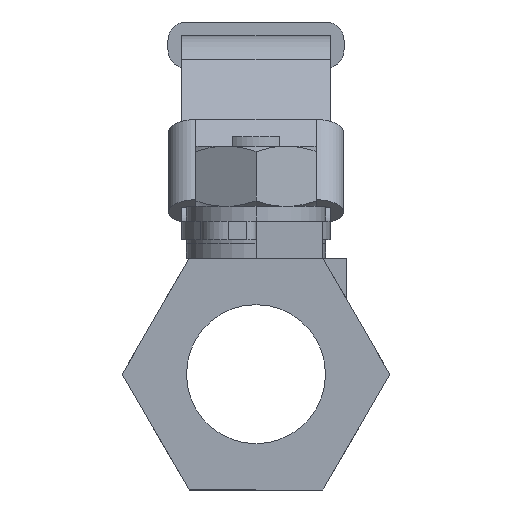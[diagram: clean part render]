
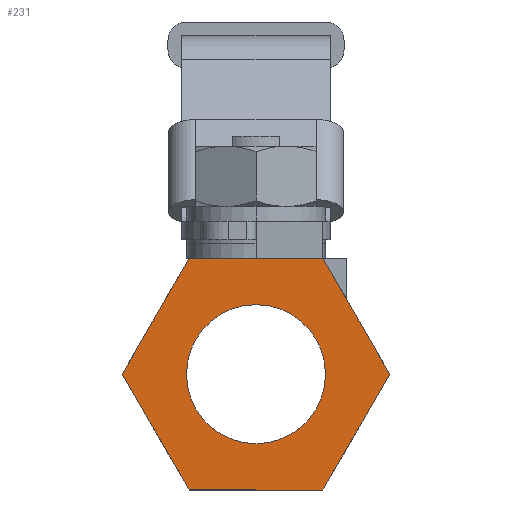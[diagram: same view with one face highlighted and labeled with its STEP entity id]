
A CAD part, left-side view. The second image highlights one B-rep face of the part: STEP entity #231.
In plain terms, the highlighted planar face has unit normal (-1, 0, 0) as drawn and (1, 0, 0) by its records, which use the part's own axes.
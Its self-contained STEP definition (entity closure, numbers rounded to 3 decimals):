
#231=ADVANCED_FACE('',(#609,#610),#608,.F.);
#608=PLANE('',#1788);
#609=FACE_OUTER_BOUND('',#1789,.T.);
#610=FACE_BOUND('',#1790,.T.);
#1785=CARTESIAN_POINT('',(56.5,-2.887,-2.5));
#1786=DIRECTION('',(-1.,0.,0.));
#1787=DIRECTION('',(0.,0.,1.));
#1788=AXIS2_PLACEMENT_3D('',#1785,#1786,#1787);
#1789=EDGE_LOOP('',(#2508,#2509,#2510,#2511,#2512,#2513));
#1790=EDGE_LOOP('',(#2514,#2515));
#2508=ORIENTED_EDGE('',*,*,#3058,.T.);
#2509=ORIENTED_EDGE('',*,*,#3054,.T.);
#2510=ORIENTED_EDGE('',*,*,#3029,.T.);
#2511=ORIENTED_EDGE('',*,*,#3085,.T.);
#2512=ORIENTED_EDGE('',*,*,#3086,.T.);
#2513=ORIENTED_EDGE('',*,*,#3087,.T.);
#2514=ORIENTED_EDGE('',*,*,#3088,.F.);
#2515=ORIENTED_EDGE('',*,*,#3089,.F.);
#3029=EDGE_CURVE('',#3597,#3590,#3598,.T.);
#3054=EDGE_CURVE('',#3767,#3597,#3768,.T.);
#3058=EDGE_CURVE('',#3793,#3767,#3794,.T.);
#3085=EDGE_CURVE('',#3590,#3966,#3967,.T.);
#3086=EDGE_CURVE('',#3966,#3973,#3974,.T.);
#3087=EDGE_CURVE('',#3973,#3793,#3980,.T.);
#3088=EDGE_CURVE('',#3986,#3987,#3988,.T.);
#3089=EDGE_CURVE('',#3987,#3986,#3994,.T.);
#3590=VERTEX_POINT('',#5567);
#3597=VERTEX_POINT('',#5571);
#3598=LINE('',#5572,#5573);
#3767=VERTEX_POINT('',#5679);
#3768=LINE('',#5680,#5681);
#3793=VERTEX_POINT('',#5693);
#3794=LINE('',#5694,#5695);
#3966=VERTEX_POINT('',#5785);
#3967=LINE('',#5786,#5787);
#3973=VERTEX_POINT('',#5789);
#3974=LINE('',#5790,#5791);
#3980=LINE('',#5793,#5794);
#3986=VERTEX_POINT('',#5796);
#3987=VERTEX_POINT('',#5797);
#3988=CIRCLE('',#5801,7.5);
#3994=CIRCLE('',#5805,7.5);
#5567=CARTESIAN_POINT('',(56.5,7.217,25.));
#5571=CARTESIAN_POINT('',(56.5,21.651,25.));
#5572=CARTESIAN_POINT('',(56.5,21.651,25.));
#5573=VECTOR('',#5574,14.434);
#5574=DIRECTION('',(0.,-1.,0.));
#5679=CARTESIAN_POINT('',(56.5,28.868,12.5));
#5680=CARTESIAN_POINT('',(56.5,28.868,12.5));
#5681=VECTOR('',#5682,14.434);
#5682=DIRECTION('',(0.,-0.5,0.866));
#5693=CARTESIAN_POINT('',(56.5,21.651,0.));
#5694=CARTESIAN_POINT('',(56.5,21.651,0.));
#5695=VECTOR('',#5696,14.434);
#5696=DIRECTION('',(0.,0.5,0.866));
#5785=CARTESIAN_POINT('',(56.5,0.,12.5));
#5786=CARTESIAN_POINT('',(56.5,7.217,25.));
#5787=VECTOR('',#5788,14.434);
#5788=DIRECTION('',(0.,-0.5,-0.866));
#5789=CARTESIAN_POINT('',(56.5,7.217,0.));
#5790=CARTESIAN_POINT('',(56.5,0.,12.5));
#5791=VECTOR('',#5792,14.434);
#5792=DIRECTION('',(0.,0.5,-0.866));
#5793=CARTESIAN_POINT('',(56.5,7.217,0.));
#5794=VECTOR('',#5795,14.434);
#5795=DIRECTION('',(0.,1.,0.));
#5796=CARTESIAN_POINT('',(56.5,14.434,5.));
#5797=CARTESIAN_POINT('',(56.5,14.434,20.));
#5798=CARTESIAN_POINT('',(56.5,14.434,12.5));
#5799=DIRECTION('',(1.,0.,0.));
#5800=DIRECTION('',(0.,0.,1.));
#5801=AXIS2_PLACEMENT_3D('',#5798,#5799,#5800);
#5802=CARTESIAN_POINT('',(56.5,14.434,12.5));
#5803=DIRECTION('',(1.,0.,0.));
#5804=DIRECTION('',(0.,0.,1.));
#5805=AXIS2_PLACEMENT_3D('',#5802,#5803,#5804);
